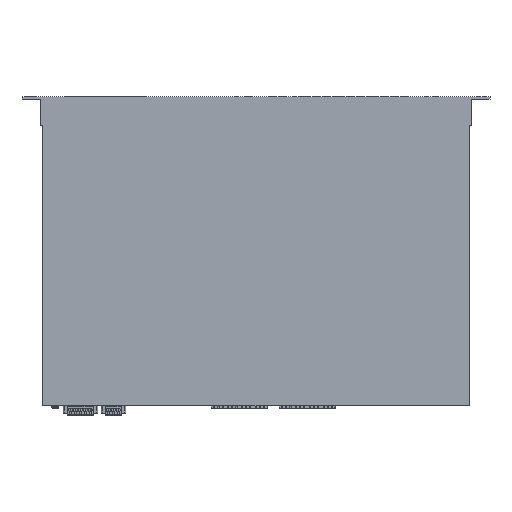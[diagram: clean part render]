
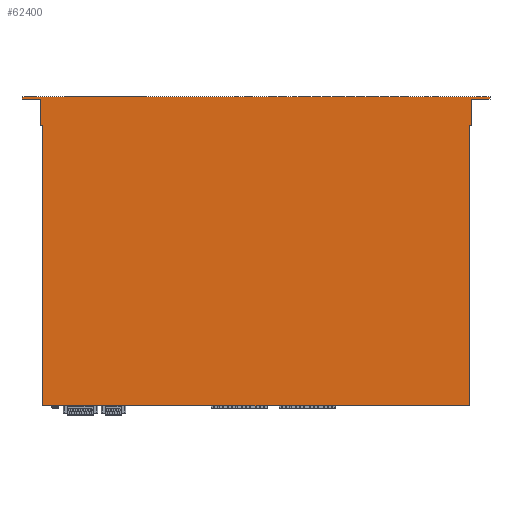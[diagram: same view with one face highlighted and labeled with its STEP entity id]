
A CAD part, top view. The second image highlights one B-rep face of the part: STEP entity #62400.
In plain terms, the highlighted planar face has unit normal (0, 0, 1).
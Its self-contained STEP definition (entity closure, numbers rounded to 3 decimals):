
#5569=CARTESIAN_POINT('',(-21.3,0.,44.));
#5570=VERTEX_POINT('',#5569);
#5577=CARTESIAN_POINT('',(-461.3,0.,44.));
#5578=VERTEX_POINT('',#5577);
#5579=CARTESIAN_POINT('',(-461.3,0.,44.));
#5580=DIRECTION('',(1.,-0.,0.));
#5581=VECTOR('',#5580,440.);
#5582=LINE('',#5579,#5581);
#5583=EDGE_CURVE('',#5578,#5570,#5582,.T.);
#61695=CARTESIAN_POINT('',(-463.8,316.3,44.));
#61696=VERTEX_POINT('',#61695);
#61703=CARTESIAN_POINT('',(-482.6,316.3,44.));
#61704=VERTEX_POINT('',#61703);
#61705=CARTESIAN_POINT('',(-463.8,316.3,44.));
#61706=DIRECTION('',(-1.,0.,-0.));
#61707=VECTOR('',#61706,18.8);
#61708=LINE('',#61705,#61707);
#61709=EDGE_CURVE('',#61696,#61704,#61708,.T.);
#61739=CARTESIAN_POINT('',(-482.6,318.8,44.));
#61740=VERTEX_POINT('',#61739);
#61741=CARTESIAN_POINT('',(-482.6,316.3,44.));
#61742=DIRECTION('',(0.,1.,-0.));
#61743=VECTOR('',#61742,2.5);
#61744=LINE('',#61741,#61743);
#61745=EDGE_CURVE('',#61704,#61740,#61744,.T.);
#61840=CARTESIAN_POINT('',(-0.,318.8,44.));
#61841=VERTEX_POINT('',#61840);
#61842=CARTESIAN_POINT('',(-482.6,318.8,44.));
#61843=DIRECTION('',(1.,-0.,0.));
#61844=VECTOR('',#61843,482.6);
#61845=LINE('',#61842,#61844);
#61846=EDGE_CURVE('',#61740,#61841,#61845,.T.);
#62138=CARTESIAN_POINT('',(0.,316.3,44.));
#62139=VERTEX_POINT('',#62138);
#62153=CARTESIAN_POINT('',(-0.,318.8,44.));
#62154=DIRECTION('',(-0.,-1.,0.));
#62155=VECTOR('',#62154,2.5);
#62156=LINE('',#62153,#62155);
#62157=EDGE_CURVE('',#61841,#62139,#62156,.T.);
#62168=CARTESIAN_POINT('',(-18.8,316.3,44.));
#62169=VERTEX_POINT('',#62168);
#62170=CARTESIAN_POINT('',(-18.8,316.3,44.));
#62171=DIRECTION('',(1.,-0.,0.));
#62172=VECTOR('',#62171,18.8);
#62173=LINE('',#62170,#62172);
#62174=EDGE_CURVE('',#62169,#62139,#62173,.T.);
#62221=CARTESIAN_POINT('',(-463.8,288.8,44.));
#62222=VERTEX_POINT('',#62221);
#62229=CARTESIAN_POINT('',(-463.8,288.8,44.));
#62230=DIRECTION('',(0.,1.,-0.));
#62231=VECTOR('',#62230,27.5);
#62232=LINE('',#62229,#62231);
#62233=EDGE_CURVE('',#62222,#61696,#62232,.T.);
#62245=CARTESIAN_POINT('',(-18.8,288.8,44.));
#62246=VERTEX_POINT('',#62245);
#62247=CARTESIAN_POINT('',(-18.8,288.8,44.));
#62248=DIRECTION('',(0.,1.,-0.));
#62249=VECTOR('',#62248,27.5);
#62250=LINE('',#62247,#62249);
#62251=EDGE_CURVE('',#62246,#62169,#62250,.T.);
#62285=CARTESIAN_POINT('',(-461.3,288.8,44.));
#62286=VERTEX_POINT('',#62285);
#62293=CARTESIAN_POINT('',(-461.3,288.8,44.));
#62294=DIRECTION('',(-1.,0.,-0.));
#62295=VECTOR('',#62294,2.5);
#62296=LINE('',#62293,#62295);
#62297=EDGE_CURVE('',#62286,#62222,#62296,.T.);
#62309=CARTESIAN_POINT('',(-21.3,288.8,44.));
#62310=VERTEX_POINT('',#62309);
#62311=CARTESIAN_POINT('',(-21.3,288.8,44.));
#62312=DIRECTION('',(1.,-0.,0.));
#62313=VECTOR('',#62312,2.5);
#62314=LINE('',#62311,#62313);
#62315=EDGE_CURVE('',#62310,#62246,#62314,.T.);
#62340=CARTESIAN_POINT('',(-461.3,0.,44.));
#62341=DIRECTION('',(0.,1.,-0.));
#62342=VECTOR('',#62341,288.8);
#62343=LINE('',#62340,#62342);
#62344=EDGE_CURVE('',#5578,#62286,#62343,.T.);
#62364=CARTESIAN_POINT('',(-21.3,288.8,44.));
#62365=DIRECTION('',(-0.,-1.,0.));
#62366=VECTOR('',#62365,288.8);
#62367=LINE('',#62364,#62366);
#62368=EDGE_CURVE('',#62310,#5570,#62367,.T.);
#62381=CARTESIAN_POINT('',(-241.3,158.65,44.));
#62382=DIRECTION('',(0.,-0.,-1.));
#62383=DIRECTION('',(-1.,0.,-0.));
#62384=AXIS2_PLACEMENT_3D('',#62381,#62382,#62383);
#62385=PLANE('',#62384);
#62386=ORIENTED_EDGE('',*,*,#62297,.F.);
#62387=ORIENTED_EDGE('',*,*,#62344,.F.);
#62388=ORIENTED_EDGE('',*,*,#5583,.T.);
#62389=ORIENTED_EDGE('',*,*,#62368,.F.);
#62390=ORIENTED_EDGE('',*,*,#62315,.T.);
#62391=ORIENTED_EDGE('',*,*,#62251,.T.);
#62392=ORIENTED_EDGE('',*,*,#62174,.T.);
#62393=ORIENTED_EDGE('',*,*,#62157,.F.);
#62394=ORIENTED_EDGE('',*,*,#61846,.F.);
#62395=ORIENTED_EDGE('',*,*,#61745,.F.);
#62396=ORIENTED_EDGE('',*,*,#61709,.F.);
#62397=ORIENTED_EDGE('',*,*,#62233,.F.);
#62398=EDGE_LOOP('',(#62386,#62387,#62388,#62389,#62390,#62391,#62392,#62393,#62394,#62395,#62396,#62397));
#62399=FACE_BOUND('',#62398,.T.);
#62400=ADVANCED_FACE('',(#62399),#62385,.F.);
